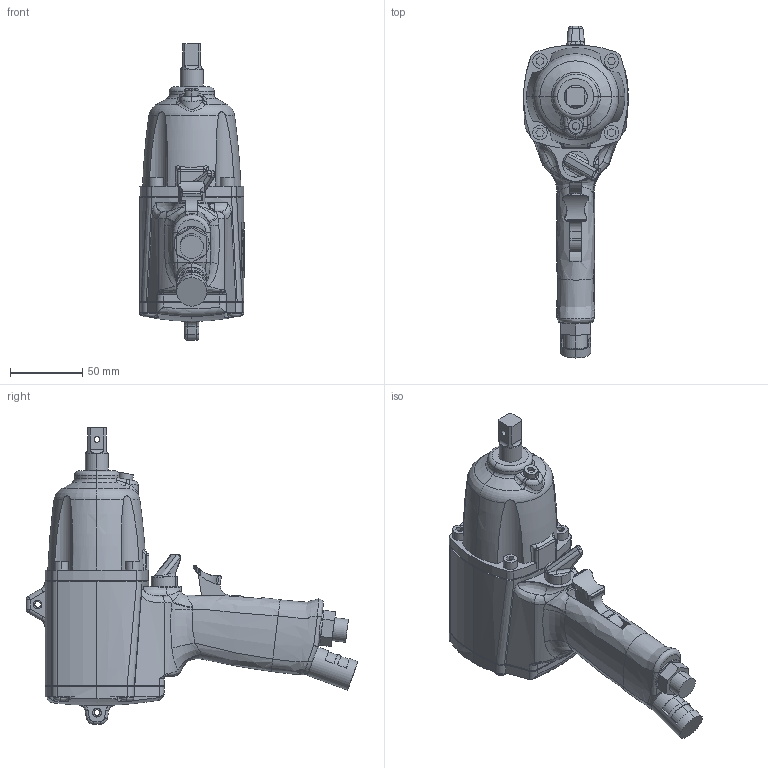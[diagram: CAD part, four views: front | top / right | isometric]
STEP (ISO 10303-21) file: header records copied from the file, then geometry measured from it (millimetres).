
FILE_DESCRIPTION (( 'STEP AP203' ), '1' );
FILE_NAME ('UX-1300.STEP', '2006-09-04T01:02:16', ( '' ), ( '' ), 'SwSTEP 2.0', 'SolidWorks 2003240', '' );
FILE_SCHEMA (( 'CONFIG_CONTROL_DESIGN' ));
Length unit declared in the file: millimetre
Products named in the file (7): 0261077_UX-1300_蹬怮椔; 1943197_UX-1300_蹬怮椔; UX-1300; 1944396_UX-1300_蹬怮椔; 1940256_UX-1300_蹬怮椔; 1940126_UX-1300_蹬怮椔; 0232124_UX-1300_蹬怮椔
Assembly tree (6 placements, depth 2):
  UX-1300
    1940126_UX-1300_蹬怮椔
    0232124_UX-1300_蹬怮椔
    1940256_UX-1300_蹬怮椔
    1944396_UX-1300_蹬怮椔
    0261077_UX-1300_蹬怮椔
    1943197_UX-1300_蹬怮椔
Bounding box: 72.4 x 229.47 x 205 mm (x, y, z)
Volume: 802893.3 mm3; surface area: 94874.6 mm2
Topology: 6 solids, 6 shells, 879 faces, 2361 edges, 1527 vertices
Faces by surface type: plane 371, cylinder 242, bspline 221, torus 31, sphere 11, cone 3
Entity records: 98282 total; most frequent: CARTESIAN_POINT 77864, ORIENTED_EDGE 4698, DIRECTION 3200, EDGE_CURVE 2349, VERTEX_POINT 1527, AXIS2_PLACEMENT_3D 1138, EDGE_LOOP 934, VECTOR 924
